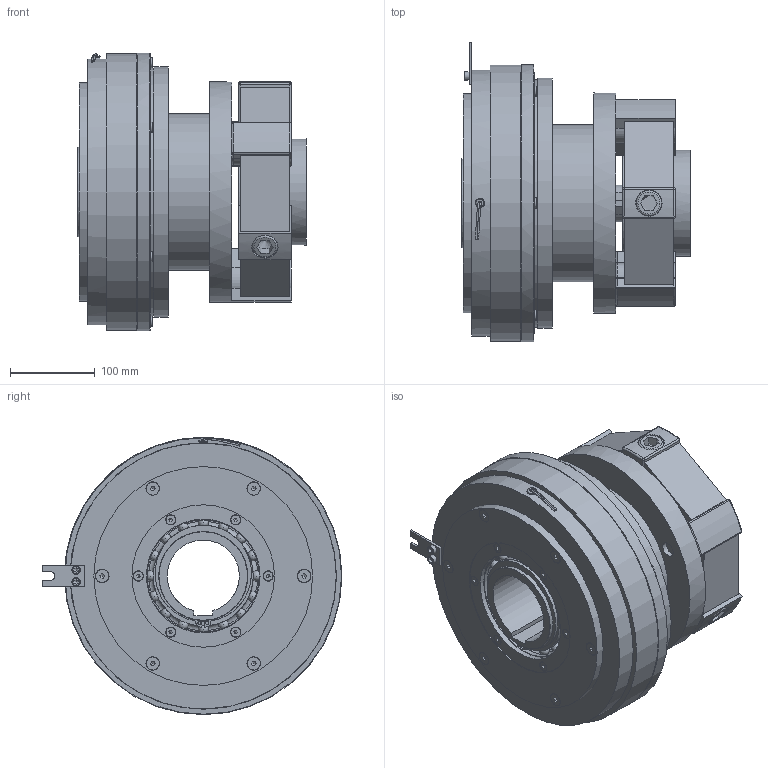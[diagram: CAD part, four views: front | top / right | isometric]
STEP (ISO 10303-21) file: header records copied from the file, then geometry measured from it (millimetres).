
FILE_DESCRIPTION(/* description */ (''),/* implementation_level */ '2;1');
FILE_NAME(/* name */ 'X:\INVENTOR\DISEGNI\08_Freni_Friz_Elettmag_Monodisco\08_26 EMSL_DF\EMSL_DF STEP\08_26_310_51 EMSL310_DF-GE@STEP.stp',/* time_stamp */ '2018-04-24T10:19:44+02:00',/* author */ ('stefano'),/* organization */ (''),/* preprocessor_version */ 'ST-DEVELOPER v17',/* originating_system */ 'Autodesk Inventor 2018',/* authorisation */ '');
FILE_SCHEMA (('AUTOMOTIVE_DESIGN { 1 0 10303 214 3 1 1 }'));
Length unit declared in the file: millimetre
Products named in the file (1): 08_26_310_51 EMSL310_DF-GE_Substitute_1
Bounding box: 270 x 353.5 x 327 mm (x, y, z)
Volume: 9762434.4 mm3; surface area: 1324394.9 mm2
Topology: 2 solids, 2 shells, 1255 faces, 3760 edges, 2556 vertices
Faces by surface type: cylinder 496, plane 470, cone 121, torus 117, sphere 48, bspline 3
Full cylindrical faces by diameter (mm): 3 x12, 3.5 x2, 4 x1, 6 x6, 6.647 x6, 8 x10, 8.1 x12, 8.376 x6, 8.5 x6, 9 x1, 10 x2, 10.106 x6, 11 x1, 11.34 x6, 12 x18, 13 x10, 13.5 x6, 15 x12, 15.24 x6, 16 x12, 17.294 x6, 30 x6, 31 x6, 48 x6, 101 x2, 105 x4, 106 x1, 117 x1, 117.8 x4, 125 x2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
Entity records: 47084 total; most frequent: CARTESIAN_POINT 12089, DIRECTION 7415, ORIENTED_EDGE 7272, EDGE_CURVE 3636, AXIS2_PLACEMENT_3D 3067, VERTEX_POINT 2556, CIRCLE 1774, EDGE_LOOP 1624
